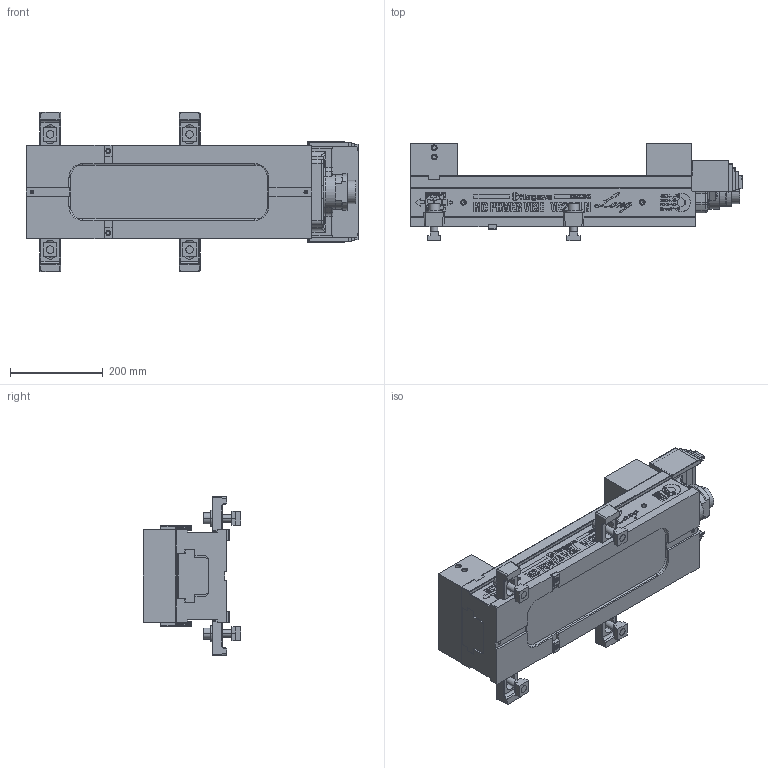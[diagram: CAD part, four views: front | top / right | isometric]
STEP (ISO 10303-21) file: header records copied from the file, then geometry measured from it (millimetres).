
FILE_DESCRIPTION (( 'STEP AP214' ), '1' );
FILE_NAME ('VE200LN_O.STEP', '2023-08-04T07:02:21', ( '' ), ( '' ), 'SwSTEP 2.0', 'SolidWorks 2020', '' );
FILE_SCHEMA (( 'AUTOMOTIVE_DESIGN' ));
Length unit declared in the file: millimetre
Products named in the file (22): スプリングケース(61M2367042)VE200; クランプ(61M3159626)VP160; 僗儔僀僪僇僶乕Z(61M3593692)VE200L; Bアナツキ M16×65; エンドカバー（61M4625121）; 僗儔僀僪僇僶乕X(61M3593673)VE200L; 僗儔僀僪僇僶乕V(61M3593652)VE200L; リボルバ部; 僒僀僪僔乕儖R(61M2680420); VE200LN_O; 儚僢僔儍丂16乮61M4266330乯; クランプクミタテ(61M420565); 僕儑乕F(61M3964312)VE200N; 僗儔僀僪僇僶乕W(61M3593663)VE200L; VE200LNホンタイ; 僕儑乕M(61俵3964320)VE200N; 僗儔僀僪僇僶乕Y(61M3593683)VE200L; T僗儘僢僩僫僢僩俿俶俵侾俉侾俇; ガイドブロック(61M4197783); カバーリング(61M4399252)VE160N; ボデー(61M2403025)VE200L; 僒僀僪僔乕儖L(61M2680430)
Assembly tree (25 placements, depth 3):
  VE200LN_O
    VE200LNホンタイ
      ボデー(61M2403025)VE200L
      ガイドブロック(61M4197783)  x2
      僕儑乕F(61M3964312)VE200N
      スプリングケース(61M2367042)VE200
      カバーリング(61M4399252)VE160N
      リボルバ部
      エンドカバー（61M4625121）
      僕儑乕M(61俵3964320)VE200N
      僗儔僀僪僇僶乕V(61M3593652)VE200L
      僗儔僀僪僇僶乕W(61M3593663)VE200L
      僗儔僀僪僇僶乕X(61M3593673)VE200L
      僗儔僀僪僇僶乕Y(61M3593683)VE200L
      僗儔僀僪僇僶乕Z(61M3593692)VE200L
      僒僀僪僔乕儖L(61M2680430)
      僒僀僪僔乕儖R(61M2680420)
    クランプクミタテ(61M420565)  x4
      クランプ(61M3159626)VP160
      儚僢僔儍丂16乮61M4266330乯
      Bアナツキ M16×65
      T僗儘僢僩僫僢僩俿俶俵侾俉侾俇
Bounding box: 714.4 x 210 x 344 mm (x, y, z)
Volume: 16659539.5 mm3; surface area: 1306004.2 mm2
Topology: 32 solids, 32 shells, 1246 faces, 6090 edges, 5214 vertices
Faces by surface type: plane 872, cylinder 263, cone 79, torus 19, bspline 13
Entity records: 70046 total; most frequent: CARTESIAN_POINT 19284, ORIENTED_EDGE 11110, DIRECTION 7669, EDGE_CURVE 5555, VERTEX_POINT 4884, LINE 4513, VECTOR 4513, AXIS2_PLACEMENT_3D 1578
